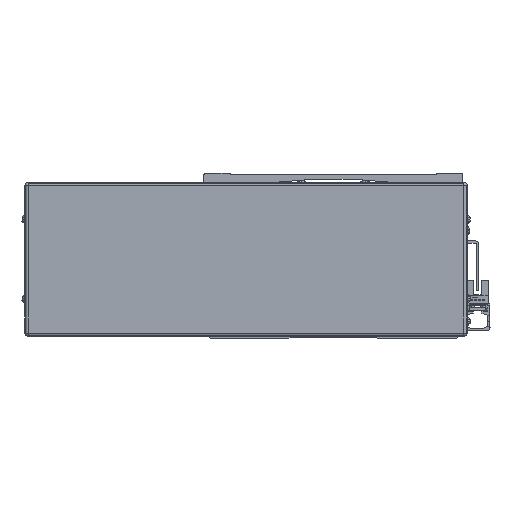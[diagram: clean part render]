
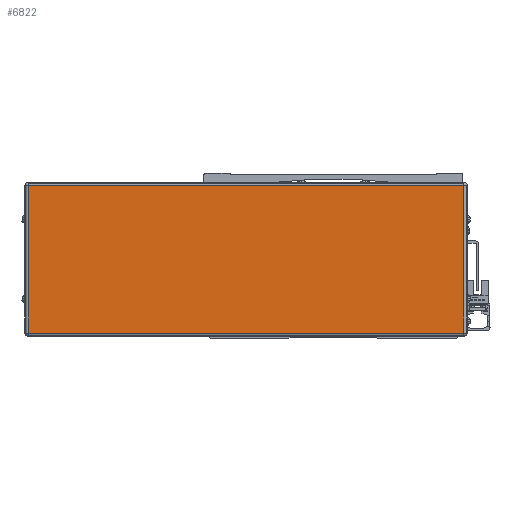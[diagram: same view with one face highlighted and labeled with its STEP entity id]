
A CAD part, front view. The second image highlights one B-rep face of the part: STEP entity #6822.
In plain terms, the highlighted planar face has unit normal (0, -1, 0).
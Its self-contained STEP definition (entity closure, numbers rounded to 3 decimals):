
#6822=ADVANCED_FACE('',(#14547),#14548,.F.);
#14547=FACE_OUTER_BOUND('',#24684,.T.);
#14548=PLANE('',#24685);
#24684=EDGE_LOOP('',(#45679,#45680,#45681,#45682));
#24685=AXIS2_PLACEMENT_3D('',#45683,#45684,#45685);
#45679=ORIENTED_EDGE('',*,*,#61504,.T.);
#45680=ORIENTED_EDGE('',*,*,#57479,.T.);
#45681=ORIENTED_EDGE('',*,*,#61364,.T.);
#45682=ORIENTED_EDGE('',*,*,#61505,.T.);
#45683=CARTESIAN_POINT('',(-655.,-472.778,-2.));
#45684=DIRECTION('',(0.,1.0,0.));
#45685=DIRECTION('',(-1.0,0.,0.));
#57479=EDGE_CURVE('',#70403,#70401,#70404,.T.);
#61364=EDGE_CURVE('',#70401,#73859,#75727,.T.);
#61504=EDGE_CURVE('',#73664,#70403,#75887,.T.);
#61505=EDGE_CURVE('',#73859,#73664,#75888,.T.);
#70401=VERTEX_POINT('',#88259);
#70403=VERTEX_POINT('',#88261);
#70404=LINE('',#88262,#88263);
#73664=VERTEX_POINT('',#93442);
#73859=VERTEX_POINT('',#93735);
#75727=LINE('',#96743,#96744);
#75887=LINE('',#96973,#96974);
#75888=LINE('',#96975,#96976);
#88259=CARTESIAN_POINT('',(-792.1,-472.778,-48.5));
#88261=CARTESIAN_POINT('',(-792.1,-472.778,44.5));
#88262=CARTESIAN_POINT('',(-792.1,-472.778,-2.));
#88263=VECTOR('',#104914,10.0);
#93442=CARTESIAN_POINT('',(-517.9,-472.778,44.5));
#93735=CARTESIAN_POINT('',(-517.9,-472.778,-48.5));
#96743=CARTESIAN_POINT('',(-655.,-472.778,-48.5));
#96744=VECTOR('',#109352,10.0);
#96973=CARTESIAN_POINT('',(-655.,-472.778,44.5));
#96974=VECTOR('',#109482,10.0);
#96975=CARTESIAN_POINT('',(-517.9,-472.778,-2.));
#96976=VECTOR('',#109483,10.0);
#104914=DIRECTION('',(0.,0.,-1.0));
#109352=DIRECTION('',(1.0,0.,0.));
#109482=DIRECTION('',(-1.0,0.,0.));
#109483=DIRECTION('',(0.,0.,1.0));
